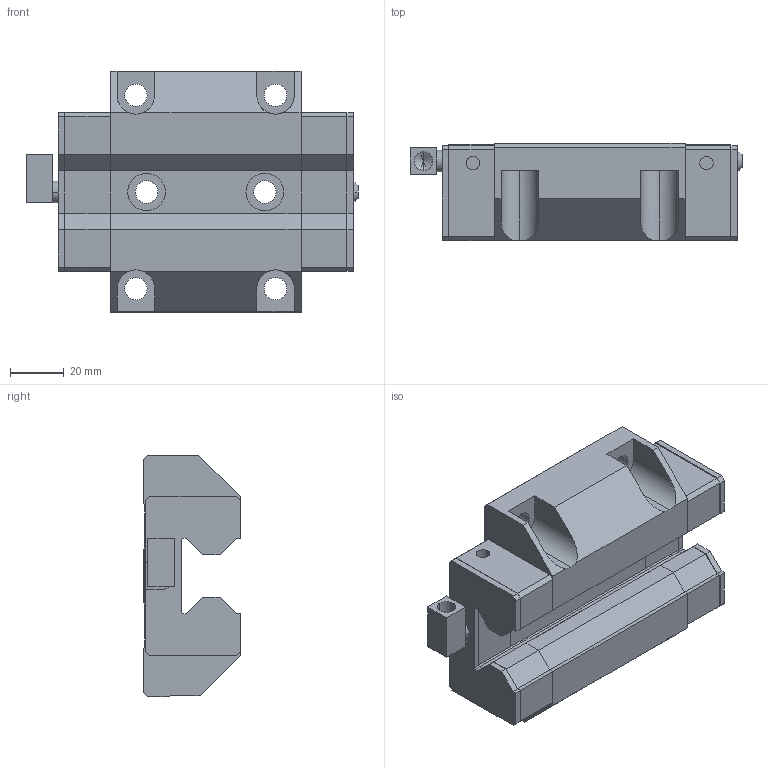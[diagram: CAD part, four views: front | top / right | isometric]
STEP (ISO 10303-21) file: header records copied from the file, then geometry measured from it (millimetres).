
FILE_DESCRIPTION (( 'STEP AP203' ), '1' );
FILE_NAME ('SGW30CC.STEP', '2025-07-11T05:18:22', ( 'Owner' ), ( 'Organization' ), 'SwSTEP 2.0', 'SolidWorks 2020', '' );
FILE_SCHEMA (( 'CONFIG_CONTROL_DESIGN' ));
Length unit declared in the file: millimetre
Products named in the file (1): SGW30CC
Bounding box: 123.6 x 36 x 90 mm (x, y, z)
Volume: 222051.2 mm3; surface area: 53475.9 mm2
Topology: 7 solids, 7 shells, 297 faces, 754 edges, 484 vertices
Faces by surface type: plane 235, cylinder 58, cone 2, torus 2
Entity records: 8888 total; most frequent: CARTESIAN_POINT 1558, ORIENTED_EDGE 1504, DIRECTION 1461, EDGE_CURVE 752, LINE 623, VECTOR 623, VERTEX_POINT 484, AXIS2_PLACEMENT_3D 419
